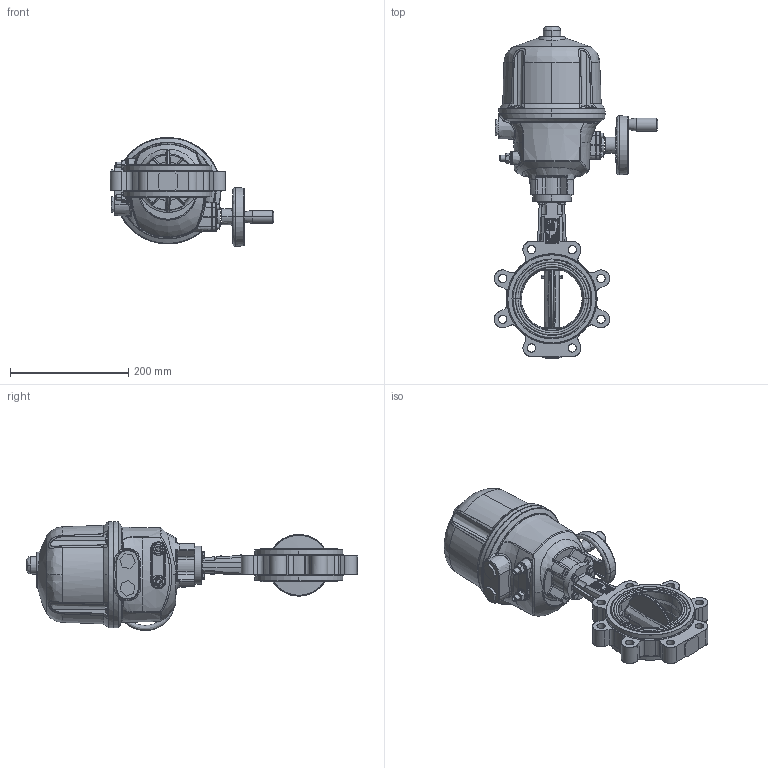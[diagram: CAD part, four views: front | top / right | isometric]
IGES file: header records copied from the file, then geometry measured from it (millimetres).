
Start section: SolidWorks IGES file using analytic representation for surfaces
Global section: file name: H:\BE FABRICATION\BE SERIE\VP\VP SERIE\F072 VPG\plan 3D\VPG-BX4\LUG\DN100\VPG464X-BX4XX0100.igs; native system: SolidWorks 2020; preprocessor: SolidWorks 2020; author: k.gigout; date: 220920.131939; units: millimetre
Bounding box: 276.98 x 561.68 x 184.41 mm (x, y, z)
Surface area: 358288.7 mm2 (no closed solid volume)
Topology: 0 solids, 0 shells, 1099 faces, 19896 edges, 19859 vertices
Faces by surface type: bspline 741, revolution 358
